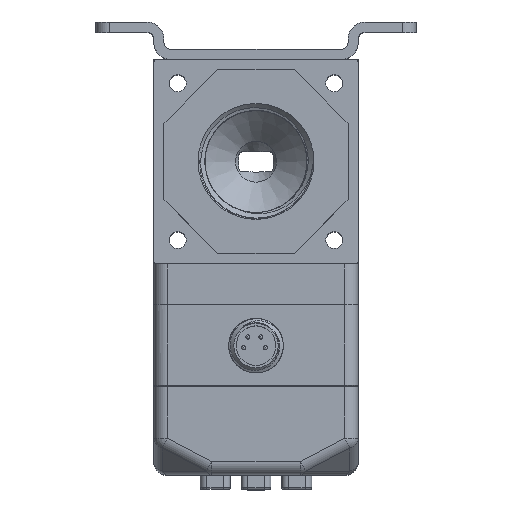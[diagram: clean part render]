
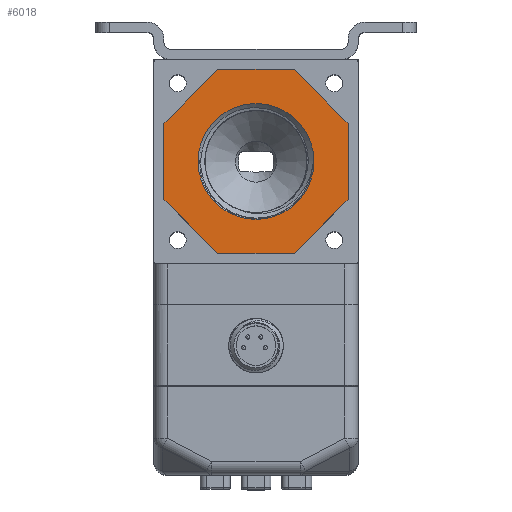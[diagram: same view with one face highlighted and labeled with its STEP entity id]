
A CAD part, top view. The second image highlights one B-rep face of the part: STEP entity #6018.
In plain terms, the highlighted planar face has unit normal (0, 0, 1).
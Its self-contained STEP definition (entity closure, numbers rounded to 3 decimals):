
#6018=ADVANCED_FACE('',(#13052,#13053),#7419,.T.);
#7419=PLANE('',#29043);
#8300=LINE('',#41175,#10578);
#8301=LINE('',#41178,#10579);
#8302=LINE('',#41180,#10580);
#8303=LINE('',#41182,#10581);
#8304=LINE('',#41184,#10582);
#8305=LINE('',#41186,#10583);
#8306=LINE('',#41188,#10584);
#8307=LINE('',#41190,#10585);
#10578=VECTOR('',#31029,1.);
#10579=VECTOR('',#31030,1.);
#10580=VECTOR('',#31031,1.);
#10581=VECTOR('',#31032,1.);
#10582=VECTOR('',#31033,1.);
#10583=VECTOR('',#31034,1.);
#10584=VECTOR('',#31035,1.);
#10585=VECTOR('',#31036,1.);
#13052=FACE_BOUND('',#13648,.T.);
#13053=FACE_BOUND('',#13649,.T.);
#13648=EDGE_LOOP('',(#15540));
#13649=EDGE_LOOP('',(#15541,#15542,#15543,#15544,#15545,#15546,#15547,#15548));
#15540=ORIENTED_EDGE('',*,*,#24922,.F.);
#15541=ORIENTED_EDGE('',*,*,#24923,.F.);
#15542=ORIENTED_EDGE('',*,*,#24924,.F.);
#15543=ORIENTED_EDGE('',*,*,#24925,.F.);
#15544=ORIENTED_EDGE('',*,*,#24926,.F.);
#15545=ORIENTED_EDGE('',*,*,#24927,.F.);
#15546=ORIENTED_EDGE('',*,*,#24928,.F.);
#15547=ORIENTED_EDGE('',*,*,#24929,.F.);
#15548=ORIENTED_EDGE('',*,*,#24930,.F.);
#22508=VERTEX_POINT('',#41174);
#22509=VERTEX_POINT('',#41176);
#22510=VERTEX_POINT('',#41177);
#22511=VERTEX_POINT('',#41179);
#22512=VERTEX_POINT('',#41181);
#22513=VERTEX_POINT('',#41183);
#22514=VERTEX_POINT('',#41185);
#22515=VERTEX_POINT('',#41187);
#22516=VERTEX_POINT('',#41189);
#24922=EDGE_CURVE('',#22508,#22508,#28387,.T.);
#24923=EDGE_CURVE('',#22509,#22510,#8300,.T.);
#24924=EDGE_CURVE('',#22511,#22509,#8301,.T.);
#24925=EDGE_CURVE('',#22512,#22511,#8302,.T.);
#24926=EDGE_CURVE('',#22513,#22512,#8303,.T.);
#24927=EDGE_CURVE('',#22514,#22513,#8304,.T.);
#24928=EDGE_CURVE('',#22515,#22514,#8305,.T.);
#24929=EDGE_CURVE('',#22516,#22515,#8306,.T.);
#24930=EDGE_CURVE('',#22510,#22516,#8307,.T.);
#28387=CIRCLE('',#29042,8.5);
#29042=AXIS2_PLACEMENT_3D('',#41173,#31027,#31028);
#29043=AXIS2_PLACEMENT_3D('',#41191,#31037,#31038);
#31027=DIRECTION('',(0.,0.,1.));
#31028=DIRECTION('',(1.,0.,0.));
#31029=DIRECTION('',(-1.,0.,0.));
#31030=DIRECTION('',(-0.707,-0.707,0.));
#31031=DIRECTION('',(0.,-1.,0.));
#31032=DIRECTION('',(0.707,-0.707,0.));
#31033=DIRECTION('',(1.,0.,0.));
#31034=DIRECTION('',(0.707,0.707,0.));
#31035=DIRECTION('',(0.,1.,0.));
#31036=DIRECTION('',(-0.707,0.707,0.));
#31037=DIRECTION('',(0.,0.,1.));
#31038=DIRECTION('',(1.,0.,0.));
#41173=CARTESIAN_POINT('',(-5.,4.,23.));
#41174=CARTESIAN_POINT('',(3.5,4.,23.));
#41175=CARTESIAN_POINT('',(-10.592,-9.5,23.));
#41176=CARTESIAN_POINT('',(0.592,-9.5,23.));
#41177=CARTESIAN_POINT('',(-10.592,-9.5,23.));
#41178=CARTESIAN_POINT('',(0.592,-9.5,23.));
#41179=CARTESIAN_POINT('',(8.5,-1.592,23.));
#41180=CARTESIAN_POINT('',(8.5,-1.592,23.));
#41181=CARTESIAN_POINT('',(8.5,9.592,23.));
#41182=CARTESIAN_POINT('',(8.5,9.592,23.));
#41183=CARTESIAN_POINT('',(0.592,17.5,23.));
#41184=CARTESIAN_POINT('',(0.592,17.5,23.));
#41185=CARTESIAN_POINT('',(-10.592,17.5,23.));
#41186=CARTESIAN_POINT('',(-10.592,17.5,23.));
#41187=CARTESIAN_POINT('',(-18.5,9.592,23.));
#41188=CARTESIAN_POINT('',(-18.5,9.592,23.));
#41189=CARTESIAN_POINT('',(-18.5,-1.592,23.));
#41190=CARTESIAN_POINT('',(-18.5,-1.592,23.));
#41191=CARTESIAN_POINT('',(-7.5,4.,23.));
